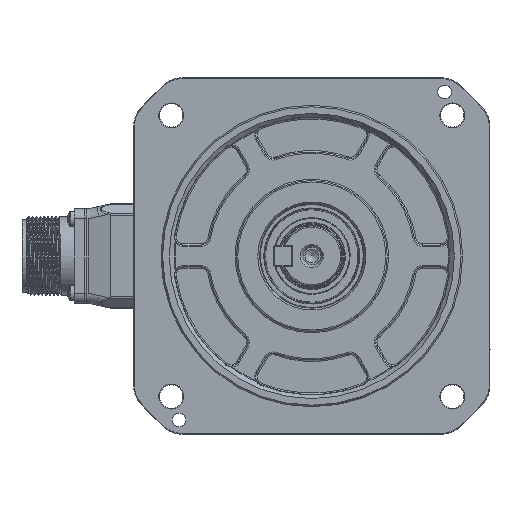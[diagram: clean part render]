
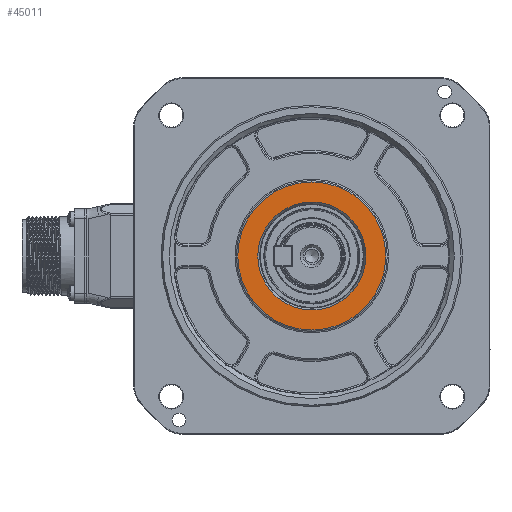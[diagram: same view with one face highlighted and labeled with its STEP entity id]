
A CAD part, left-side view. The second image highlights one B-rep face of the part: STEP entity #45011.
In plain terms, the highlighted planar face has unit normal (-1, 0, 0).
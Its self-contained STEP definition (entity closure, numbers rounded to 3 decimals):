
#3337 = EDGE_LOOP ( 'NONE', ( #41684 ) ) ;
#7430 = ORIENTED_EDGE ( 'NONE', *, *, #59207, .T. ) ;
#7835 = AXIS2_PLACEMENT_3D ( 'NONE', #61958, #8086, #73677 ) ;
#8086 = DIRECTION ( 'NONE',  ( -1., 0., 0. ) ) ;
#27437 = EDGE_LOOP ( 'NONE', ( #7430 ) ) ;
#31657 = DIRECTION ( 'NONE',  ( 1., 0., 0. ) ) ;
#40919 = PLANE ( 'NONE',  #48400 ) ;
#41684 = ORIENTED_EDGE ( 'NONE', *, *, #55870, .F. ) ;
#44671 = CARTESIAN_POINT ( 'NONE',  ( 0.8, 0., -19.693 ) ) ;
#45011 = ADVANCED_FACE ( 'NONE', ( #79878, #50809 ), #40919, .F. ) ;
#48400 = AXIS2_PLACEMENT_3D ( 'NONE', #108964, #31657, #69390 ) ;
#50809 = FACE_OUTER_BOUND ( 'NONE', #27437, .T. ) ;
#53499 = CARTESIAN_POINT ( 'NONE',  ( 0.8, 0., 0. ) ) ;
#55783 = VERTEX_POINT ( 'NONE', #44671 ) ;
#55870 = EDGE_CURVE ( 'NONE', #55783, #55783, #110590, .T. ) ;
#58831 = CARTESIAN_POINT ( 'NONE',  ( 0.8, 0., -27. ) ) ;
#59207 = EDGE_CURVE ( 'NONE', #96605, #96605, #87347, .T. ) ;
#61958 = CARTESIAN_POINT ( 'NONE',  ( 0.8, 0., 0. ) ) ;
#69390 = DIRECTION ( 'NONE',  ( 0., 0., -1. ) ) ;
#73677 = DIRECTION ( 'NONE',  ( 0., 0., -1. ) ) ;
#79878 = FACE_BOUND ( 'NONE', #3337, .T. ) ;
#81958 = DIRECTION ( 'NONE',  ( 0., 0., -1. ) ) ;
#87347 = CIRCLE ( 'NONE', #91332, 27. ) ;
#91332 = AXIS2_PLACEMENT_3D ( 'NONE', #53499, #94754, #81958 ) ;
#94754 = DIRECTION ( 'NONE',  ( -1., 0., 0. ) ) ;
#96605 = VERTEX_POINT ( 'NONE', #58831 ) ;
#108964 = CARTESIAN_POINT ( 'NONE',  ( 0.8, 27.5, 0. ) ) ;
#110590 = CIRCLE ( 'NONE', #7835, 19.693 ) ;
